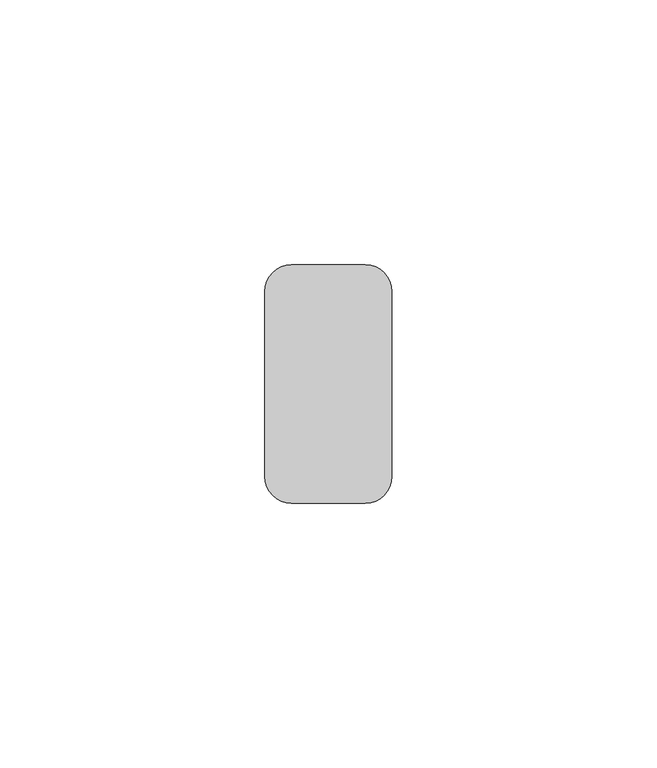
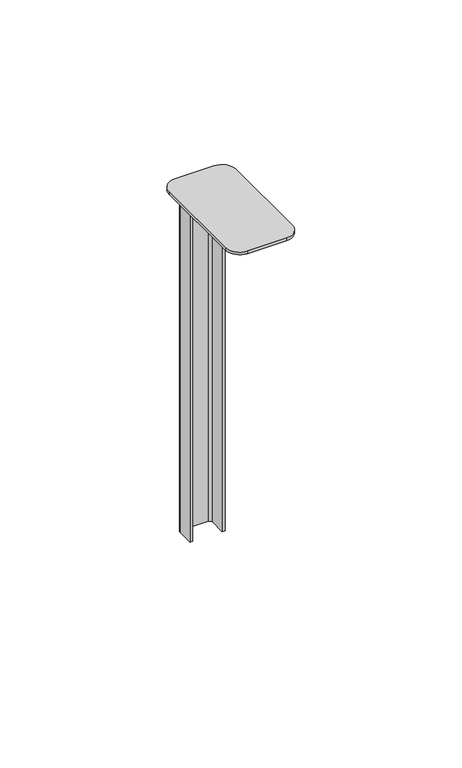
"""IFC4 building model written with IfcOpenShell, lengths in millimetres: proxy geometry, durlum_U1300 : durlum_U1300."""

from ifc_helpers import new_model, si_unit, point, frame, frame_2d, origin, place, context, project, spatial, polyline, circle_curve, trimmed, segment, composite_curve, outline, extrude, source, transform, mapped, element, save


def generic_models_ac107275(model_context):
    return source(origin(), model_context, "Body", "SweptSolid", [
        extrude(outline(composite_curve([segment(trimmed(circle_curve(frame_2d((7.0, -5.0)), 5.0), [point((7.0, 0.0))], [point((12.0, -5.0))], False, "CARTESIAN"), True, "CONTINUOUS"), segment(polyline([(12.0, -5.0), (12.0, -40.0)]), True, "CONTINUOUS"), segment(trimmed(circle_curve(frame_2d((7.0, -40.0)), 5.0), [point((12.0, -40.0))], [point((7.0, -45.0))], False, "CARTESIAN"), True, "CONTINUOUS"), segment(polyline([(7.0, -45.0), (-7.0, -45.0)]), True, "CONTINUOUS"), segment(trimmed(circle_curve(frame_2d((-7.0, -40.0)), 5.0), [point((-7.0, -45.0))], [point((-12.0, -40.0))], False, "CARTESIAN"), True, "CONTINUOUS"), segment(polyline([(-12.0, -40.0), (-12.0, -5.0)]), True, "CONTINUOUS"), segment(trimmed(circle_curve(frame_2d((-7.0, -5.0)), 5.0), [point((-12.0, -5.0))], [point((-7.0, 0.0))], False, "CARTESIAN"), True, "CONTINUOUS"), segment(polyline([(-7.0, 0.0), (7.0, 0.0)]), True, "CONTINUOUS")], self_intersect=False)), frame((0.0, 0.0, 848.5875318), z_axis=(0.0, 0.0, 1.0), x_axis=(1.0, 0.0, 0.0)), (0.0, 0.0, 1.0), 1.0),
        extrude(outline(composite_curve([segment(trimmed(circle_curve(frame_2d((-4.25, -2.0)), 2.0), [point((-6.25, -2.0))], [point((-4.25, 0.0))], False, "CARTESIAN"), True, "CONTINUOUS"), segment(polyline([(-4.25, 0.0), (4.25, 0.0)]), True, "CONTINUOUS"), segment(trimmed(circle_curve(frame_2d((4.25, -2.0)), 2.0), [point((4.25, 0.0))], [point((6.25, -2.0))], False, "CARTESIAN"), True, "CONTINUOUS"), segment(polyline([(6.25, -2.0), (6.25, -8.0), (5.25, -8.0), (5.25, -2.0)]), True, "CONTINUOUS"), segment(trimmed(circle_curve(frame_2d((4.25, -2.0)), 1.0), [point((5.25, -2.0))], [point((4.25, -1.0))], True, "CARTESIAN"), True, "CONTINUOUS"), segment(polyline([(4.25, -1.0), (-4.25, -1.0)]), True, "CONTINUOUS"), segment(trimmed(circle_curve(frame_2d((-4.25, -2.0)), 1.0), [point((-4.25, -1.0))], [point((-5.25, -2.0))], True, "CARTESIAN"), True, "CONTINUOUS"), segment(polyline([(-5.25, -2.0), (-5.25, -8.0), (-6.25, -8.0), (-6.25, -2.0)]), True, "CONTINUOUS")], self_intersect=False)), frame((0.0, 0.0, 716.5875318), z_axis=(0.0, 0.0, 1.0), x_axis=(1.0, 0.0, 0.0)), (0.0, 0.0, 1.0), 132.0),
    ])


if __name__ == "__main__":
    model = new_model("IFC4")
    model_context = context("Model", 3, world=origin())
    ifc_project = project(units=[si_unit("LENGTHUNIT", "METRE", prefix="MILLI")], contexts=[model_context])
    site = spatial("IfcSite", under=ifc_project)
    building = spatial("IfcBuilding", under=site)
    placement = place(None, origin())
    generic_models_shape = generic_models_ac107275(model_context)
    element("IfcBuildingElementProxy", 1, Name="durlum_U1300 : durlum_U1300", ObjectType="durlum_U1300 : durlum_U1300", at=placement, inside=building, context=model_context, shape_type="MappedRepresentation", body=[
        mapped(generic_models_shape, transform((0.0, 0.0, 0.0), x_axis=(1.0, 0.0, 0.0), y_axis=(0.0, 1.0, 0.0), z_axis=(0.0, 0.0, 1.0))),
    ])
    save(model, "model.ifc")
